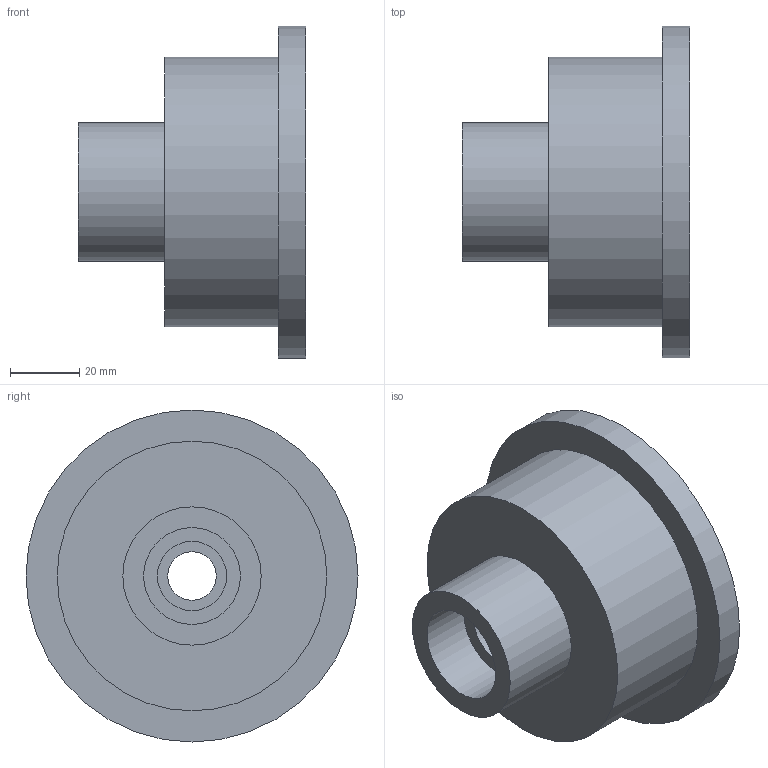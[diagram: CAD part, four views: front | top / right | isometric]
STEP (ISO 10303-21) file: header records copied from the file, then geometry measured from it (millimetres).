
FILE_DESCRIPTION(('Open CASCADE Model'),'2;1');
FILE_NAME('Open CASCADE Shape Model','2026-11-03T01:23:15',('Author'),( 'Open CASCADE'),'Open CASCADE STEP processor 7.9','Open CASCADE 7.9' ,'Unknown');
FILE_SCHEMA(('AUTOMOTIVE_DESIGN { 1 0 10303 214 1 1 1 1 }'));
Length unit declared in the file: millimetre
Products named in the file (1): Open CASCADE STEP translator 7.9 2
Bounding box: 65.8 x 96 x 96 mm (x, y, z)
Volume: 91520.9 mm3; surface area: 38584 mm2
Topology: 1 solids, 1 shells, 26 faces, 39 edges, 26 vertices
Faces by surface type: cylinder 13, plane 13
Full cylindrical faces by diameter (mm): 5.6 x6, 14 x1, 20 x1, 28 x1, 40 x1, 70 x1, 78 x1, 96 x1
Entity records: 1131 total; most frequent: CARTESIAN_POINT 212, DIRECTION 190, ORIENTED_EDGE 78, PCURVE 78, DEFINITIONAL_REPRESENTATION 78, LINE 65, VECTOR 65, AXIS2_PLACEMENT_3D 53
